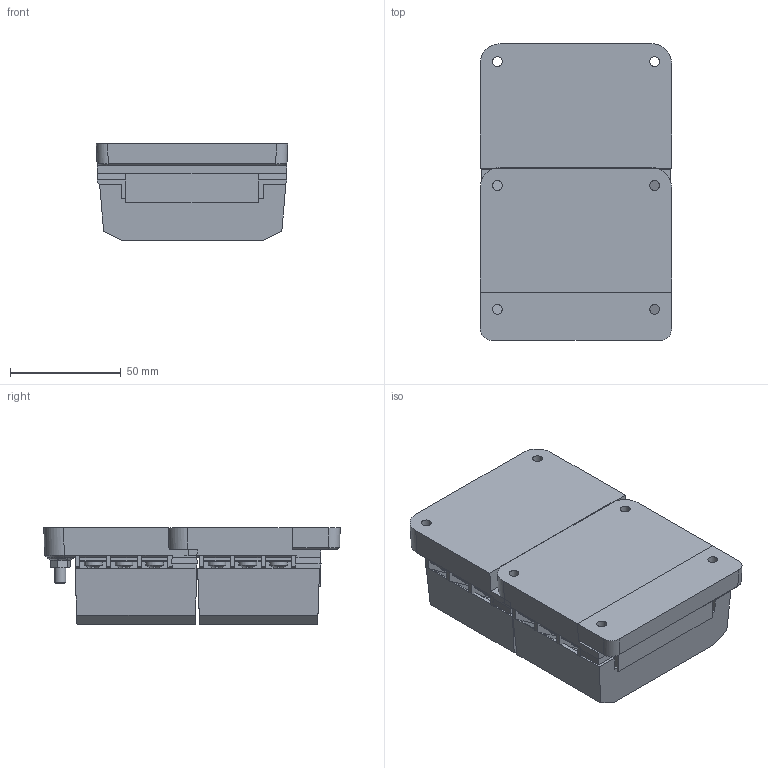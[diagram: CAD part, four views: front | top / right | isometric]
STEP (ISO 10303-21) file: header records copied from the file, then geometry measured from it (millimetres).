
FILE_DESCRIPTION(/* description */ (''),/* implementation_level */ '2;1');
FILE_NAME(/* name */ '5f9c31e0e727fc115b8f89da',/* time_stamp */ '2020-10-30T15:31:45+00:00',/* author */ (''),/* organization */ (''),/* preprocessor_version */ 'ST-DEVELOPER v16.7',/* originating_system */ $,/* authorisation */ $);
FILE_SCHEMA (('AUTOMOTIVE_DESIGN {1 0 10303 214 3 1 1}'));
Length unit declared in the file: metre
Products named in the file (8): 8029; PH Pan head screw M4x0.70 x 8; Part 1; Hex flange nut M5x0.80; Socket button head screw M5x0.8 x 12; 8028 No Filler <1>
Assembly tree (22 placements, depth 3):
  8029
    PH Pan head screw M4x0.70 x 8  x6
    Part 1
    Part 1
    Hex flange nut M5x0.80
    Part 1
    Socket button head screw M5x0.8 x 12
    8028 No Filler <1>
      PH Pan head screw M4x0.70 x 8  x6
      Socket button head screw M5x0.8 x 12
      Part 1
      Hex flange nut M5x0.80
      Part 1
Bounding box: 86.5 x 134.06 x 43.7 mm (x, y, z)
Volume: 274740.8 mm3; surface area: 96301.1 mm2
Topology: 21 solids, 21 shells, 1337 faces, 3547 edges, 2324 vertices
Faces by surface type: plane 1041, cylinder 198, cone 50, bspline 18, torus 16, sphere 14
Full cylindrical faces by diameter (mm): 3.175 x12, 3.2 x12, 3.962 x2, 4 x12, 4.134 x2, 4.42 x2, 4.45 x4, 5 x2, 7.1 x4, 8 x12, 8.5 x4
Entity records: 15963 total; most frequent: CARTESIAN_POINT 3073, ORIENTED_EDGE 2608, DIRECTION 2527, EDGE_CURVE 1304, LINE 1015, VECTOR 1015, VERTEX_POINT 877, AXIS2_PLACEMENT_3D 756
